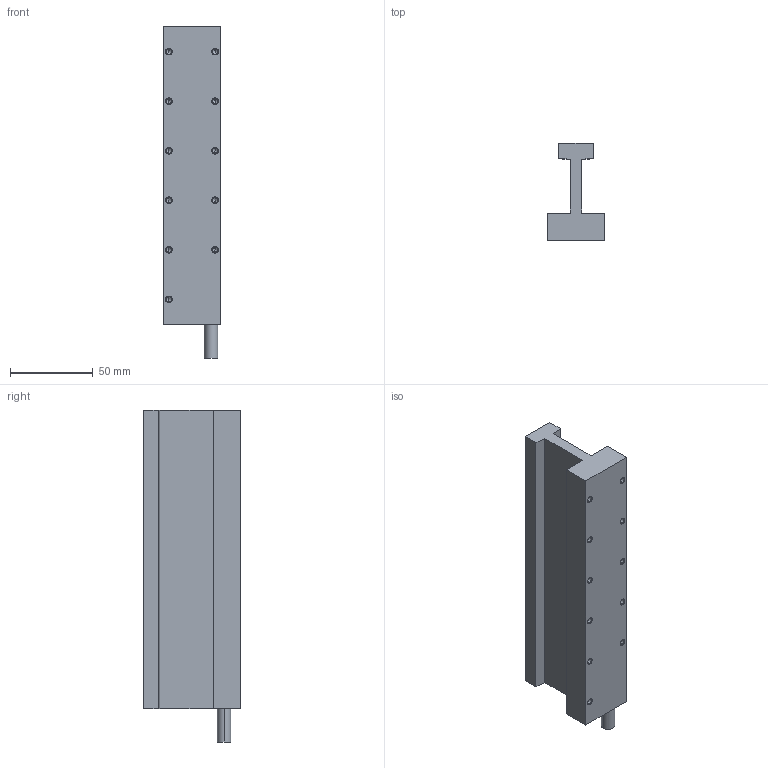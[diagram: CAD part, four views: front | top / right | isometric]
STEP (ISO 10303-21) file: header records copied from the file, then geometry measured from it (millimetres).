
FILE_DESCRIPTION (( 'STEP AP214' ), '1' );
FILE_NAME ('JKA33.STEP', '2025-09-05T12:43:44', ( '' ), ( '' ), 'SwSTEP 2.0', 'SolidWorks 2016', '' );
FILE_SCHEMA (( 'AUTOMOTIVE_DESIGN' ));
Length unit declared in the file: millimetre
Products named in the file (1): JKA33
Bounding box: 35 x 58.8 x 201 mm (x, y, z)
Volume: 182033 mm3; surface area: 42519.2 mm2
Topology: 1 solids, 1 shells, 83 faces, 196 edges, 105 vertices
Faces by surface type: cone 44, cylinder 24, plane 15
Entity records: 2470 total; most frequent: DIRECTION 412, CARTESIAN_POINT 363, ORIENTED_EDGE 348, EDGE_CURVE 174, AXIS2_PLACEMENT_3D 154, VERTEX_POINT 105, LINE 104, VECTOR 104
